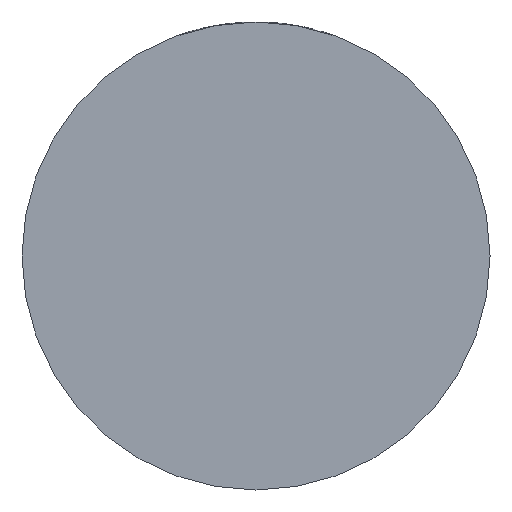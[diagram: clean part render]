
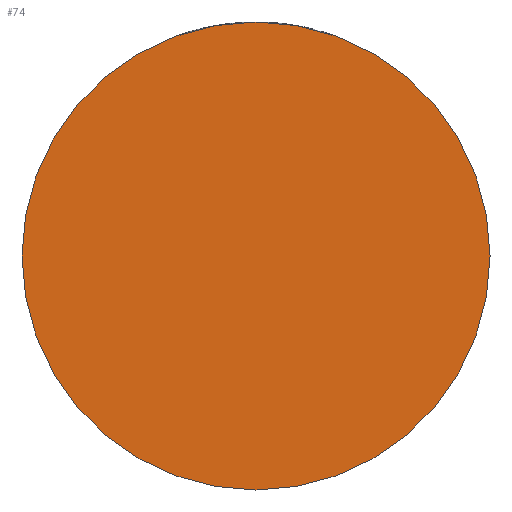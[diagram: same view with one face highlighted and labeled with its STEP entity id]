
A CAD part, front view. The second image highlights one B-rep face of the part: STEP entity #74.
In plain terms, the highlighted planar face has unit normal (0, -1, 0).
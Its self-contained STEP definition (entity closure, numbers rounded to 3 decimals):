
#74 = ADVANCED_FACE ( 'NONE', ( #995 ), #360, .T. ) ;
#360 = PLANE ( 'NONE',  #4243 ) ;
#441 = CARTESIAN_POINT ( 'NONE',  ( -29.5, -25., 0. ) ) ;
#770 = ORIENTED_EDGE ( 'NONE', *, *, #1823, .T. ) ;
#995 = FACE_OUTER_BOUND ( 'NONE', #3806, .T. ) ;
#1082 = CARTESIAN_POINT ( 'NONE',  ( 0., -25., 0. ) ) ;
#1129 = DIRECTION ( 'NONE',  ( 1., 0., 0. ) ) ;
#1324 = CIRCLE ( 'NONE', #3173, 29.5 ) ;
#1823 = EDGE_CURVE ( 'NONE', #3555, #2166, #1831, .T. ) ;
#1831 = CIRCLE ( 'NONE', #4384, 29.5 ) ;
#2166 = VERTEX_POINT ( 'NONE', #441 ) ;
#2206 = CARTESIAN_POINT ( 'NONE',  ( 0., -25., 0. ) ) ;
#2614 = CARTESIAN_POINT ( 'NONE',  ( 0., -25., 0. ) ) ;
#2741 = CARTESIAN_POINT ( 'NONE',  ( 29.5, -25., 0. ) ) ;
#2791 = ORIENTED_EDGE ( 'NONE', *, *, #3719, .T. ) ;
#2905 = DIRECTION ( 'NONE',  ( 0., -1., 0. ) ) ;
#3086 = DIRECTION ( 'NONE',  ( 0., -1., 0. ) ) ;
#3173 = AXIS2_PLACEMENT_3D ( 'NONE', #2614, #2905, #4330 ) ;
#3555 = VERTEX_POINT ( 'NONE', #2741 ) ;
#3719 = EDGE_CURVE ( 'NONE', #2166, #3555, #1324, .T. ) ;
#3806 = EDGE_LOOP ( 'NONE', ( #2791, #770 ) ) ;
#3888 = DIRECTION ( 'NONE',  ( 0., -1., 0. ) ) ;
#3913 = DIRECTION ( 'NONE',  ( 1., 0., 0. ) ) ;
#4243 = AXIS2_PLACEMENT_3D ( 'NONE', #1082, #3086, #1129 ) ;
#4330 = DIRECTION ( 'NONE',  ( 1., 0., 0. ) ) ;
#4384 = AXIS2_PLACEMENT_3D ( 'NONE', #2206, #3888, #3913 ) ;
